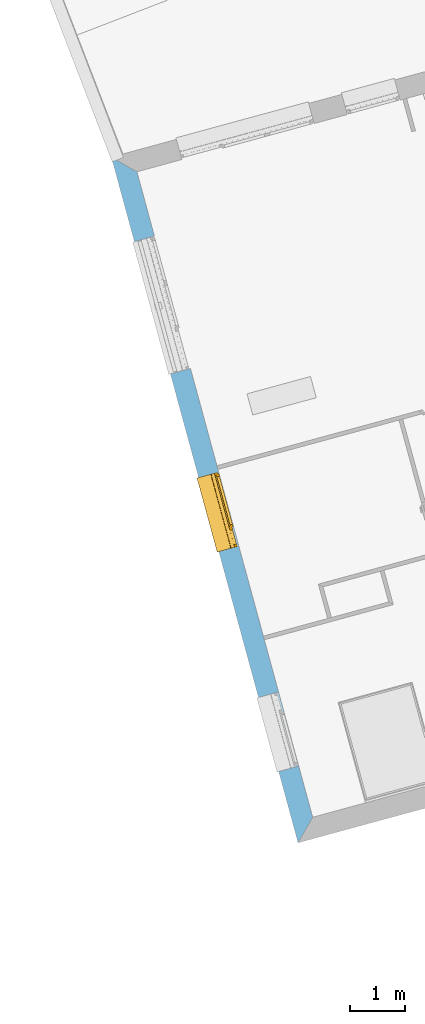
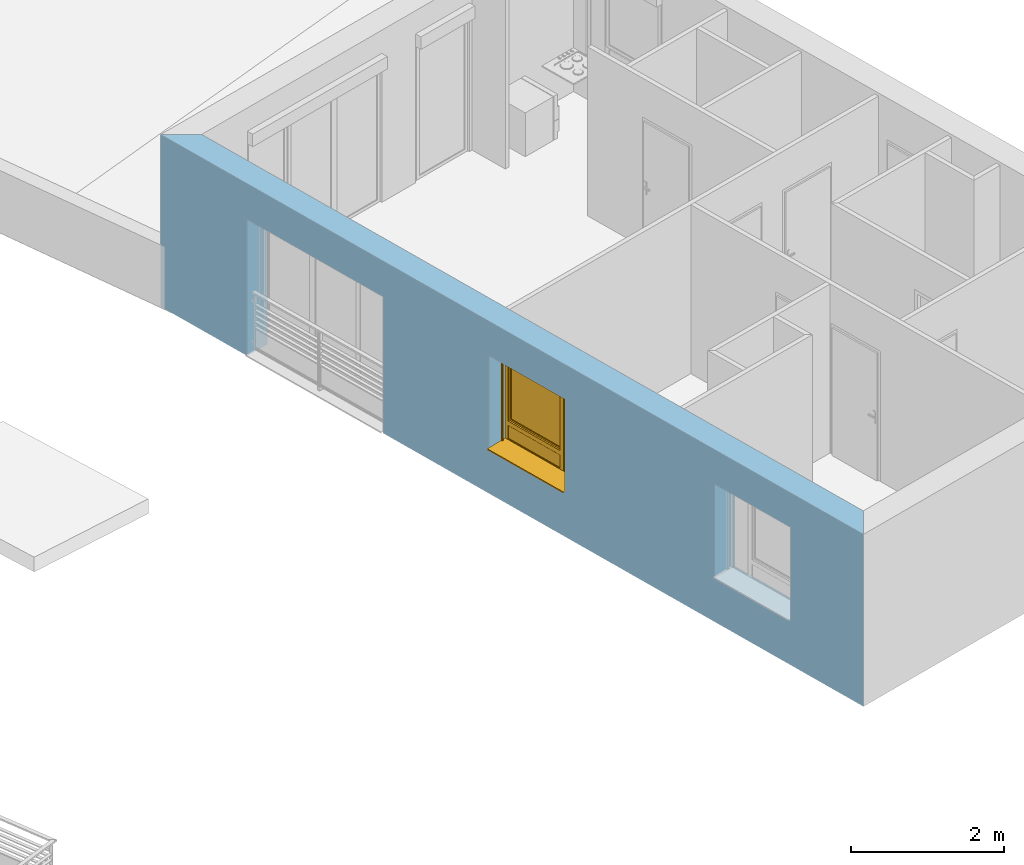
# One storey, part 62 of 121: 1 window, 3 openings, plus 1 element that does not belong to this part.
"""IFC2X3 building model written with IfcOpenShell, lengths in metres."""

from ifc_helpers import new_model, entity, si_unit, converted_unit, derived_unit, money_unit, direction, frame, origin_with_axes, place, context, subcontext, project, spatial, polyline, outline, extrude, open_shell, faceted_brep, surface_model, source, transform, mapped, material, layer, layer_set, layer_usage, type_object, element, fill, save


model = new_model("IFC2X3")

# Units and contexts
model_context = context("Model", 3, precision=1e-05, world=origin_with_axes(), true_north=direction((0.0, 1.0)))
body_context = subcontext(model_context, "Body", "Model", "MODEL_VIEW")
ifc_project = project(units=[si_unit("LENGTHUNIT", "METRE"), si_unit("AREAUNIT", "SQUARE_METRE"), si_unit("VOLUMEUNIT", "CUBIC_METRE"), converted_unit("PLANEANGLEUNIT", "DEGREE", entity("IfcPlaneAngleMeasure", 0.0174532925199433), si_unit("PLANEANGLEUNIT", "RADIAN"), dimensions=[0, 0, 0, 0, 0, 0, 0]), money_unit("CHF"), converted_unit("TIMEUNIT", "Year", entity("IfcTimeMeasure", 31557600.0), si_unit("TIMEUNIT", "SECOND"), dimensions=[0, 0, 1, 0, 0, 0, 0]), si_unit("MASSUNIT", "GRAM", prefix="KILO"), si_unit("THERMODYNAMICTEMPERATUREUNIT", "DEGREE_CELSIUS"), si_unit("LUMINOUSINTENSITYUNIT", "LUMEN"), si_unit("ENERGYUNIT", "JOULE", prefix="MEGA"), derived_unit("THERMALCONDUCTANCEUNIT", [(si_unit("POWERUNIT", "WATT"), 1), (si_unit("LENGTHUNIT", "METRE"), -1), (si_unit("THERMODYNAMICTEMPERATUREUNIT", "KELVIN"), -1)]), derived_unit("SPECIFICHEATCAPACITYUNIT", [(si_unit("ENERGYUNIT", "JOULE"), 1), (si_unit("MASSUNIT", "GRAM", prefix="KILO"), -1), (si_unit("THERMODYNAMICTEMPERATUREUNIT", "KELVIN"), -1)]), derived_unit("MASSDENSITYUNIT", [(si_unit("MASSUNIT", "GRAM", prefix="KILO"), 1), (si_unit("VOLUMEUNIT", "CUBIC_METRE"), -1)])], contexts=[model_context])

# Site, building, storey
site_placement = place(None, origin_with_axes())
site = spatial("IfcSite", under=ifc_project, at=site_placement, Name="Site", CompositionType="ELEMENT")
building_placement = place(site_placement, origin_with_axes())
building = spatial("IfcBuilding", under=site, at=building_placement, Name="Bâtiment", CompositionType="ELEMENT")
storey_placement = place(building_placement, frame((0.0, 0.0, 2.75), z_axis=(0.0, 0.0, 1.0), x_axis=(1.0, 0.0, 0.0)))
storey = spatial("IfcBuildingStorey", under=building, at=storey_placement, Name="Etage 1", CompositionType="ELEMENT", Elevation=2.75)

# Wall, openings, window
ifc_material_1 = material(Name="Parpaing 312445824")
ifc_layer_1 = layer(ifc_material_1, 0.22, ventilated="UNKNOWN")
ifc_material_2 = material(Name="Isolant styromousse 301821074")
ifc_layer_2 = layer(ifc_material_2, 0.16, ventilated="UNKNOWN")
ifc_layer_set = layer_set([ifc_layer_1, ifc_layer_2], Name="isol int 22+16 0836643197")
ifc_layer_usage = layer_usage(ifc_layer_set, "AXIS2", "NEGATIVE", 0.0)
wall_type = type_object("IfcWallType", Name="isol int 22+16 0836643197 380", PredefinedType="NOTDEFINED")
wall_placement = place(storey_placement, frame((9589.740388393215, -1059.429674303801, 57.7), z_axis=(0.0, 0.0, 1.0), x_axis=(-0.2627340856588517, 0.9648682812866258, 0.0)))
wall = element("IfcWallStandardCase", 1, at=wall_placement, inside=storey, type_object=wall_type, material=ifc_layer_usage, Name="Mur-113", context=body_context, shape_type="SweptSolid", body=[
    extrude(outline(polyline([(0.3800000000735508, -0.3800000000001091), (12.5772734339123, -0.3800000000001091), (12.95727343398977, 0.0), (0.0, 0.0), (0.3800000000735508, -0.3800000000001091)])), origin_with_axes(), (0.0, 0.0, 1.0), 2.75),
])
opening_1_placement = place(wall_placement, frame((6.202420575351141, 0.0, 0.7000000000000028), z_axis=(0.0, 0.0, 1.0), x_axis=(1.0, 0.0, 0.0)))
opening_1 = element("IfcOpeningElement", 2, at=opening_1_placement, cuts=wall, Name="Fen-045", context=body_context, shape_type="Brep", body=[
    faceted_brep([(0.6999999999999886, -0.4800000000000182, 1.5), (-0.6999999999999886, -0.4800000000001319, 1.5), (-0.6999999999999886, -3.665717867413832, 1.5), (0.6999999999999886, -3.665717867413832, 1.5), (0.6999999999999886, -0.4800000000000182, 1.700000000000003), (-0.6999999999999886, -0.4800000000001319, 1.700000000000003), (-0.6999999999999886, -0.3000000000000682, 1.5), (-0.6999999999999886, -0.3000000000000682, 0.0), (-0.6999999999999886, -3.665717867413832, 0.0), (0.6999999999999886, -3.665717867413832, 0.0), (0.6999999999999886, -0.3000000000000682, 1.5), (0.6999999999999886, -0.3000000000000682, 0.0), (0.6999999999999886, -0.2200000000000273, 1.5), (0.6999999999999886, -0.2200000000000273, 1.700000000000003), (-0.6999999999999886, -0.2200000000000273, 1.700000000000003), (-0.6999999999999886, -0.2200000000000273, 1.5), (-0.6999999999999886, 3.285717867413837, 1.5), (-0.6999999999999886, 3.285717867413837, 0.0), (0.6999999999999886, 3.285717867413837, 0.0), (0.6999999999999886, 3.285717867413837, 1.5)], [[[0, 1, 2, 3]], [[1, 0, 4, 5]], [[1, 6, 7, 8, 2]], [[2, 8, 9, 3]], [[10, 0, 3, 9, 11]], [[0, 10, 12, 13, 4]], [[14, 5, 4, 13]], [[6, 1, 5, 14, 15]], [[6, 15, 16, 17, 7]], [[7, 11, 9, 8]], [[12, 10, 11, 18, 19]], [[12, 15, 14, 13]], [[15, 12, 19, 16]], [[19, 18, 17, 16]], [[11, 7, 17, 18]]]),
])
opening_2_placement = place(wall_placement, frame((2.047784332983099, 0.0, 0.7000000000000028), z_axis=(0.0, 0.0, 1.0), x_axis=(1.0, 0.0, 0.0)))
element("IfcOpeningElement", 3, at=opening_2_placement, cuts=wall, Name="Fen-045", context=body_context, shape_type="Brep", body=[
    faceted_brep([(0.6999999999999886, -0.4800000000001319, 1.5), (-0.7000000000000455, -0.4800000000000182, 1.5), (-0.7000000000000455, -3.665717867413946, 1.5), (0.6999999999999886, -3.665717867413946, 1.5), (0.6999999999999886, -0.4800000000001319, 1.700000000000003), (-0.7000000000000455, -0.4800000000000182, 1.700000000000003), (-0.7000000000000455, -0.3000000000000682, 1.5), (-0.6999999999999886, -0.3000000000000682, 0.0), (-0.7000000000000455, -3.665717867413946, 0.0), (0.6999999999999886, -3.665717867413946, 0.0), (0.6999999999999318, -0.2999999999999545, 1.5), (0.6999999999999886, -0.2999999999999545, 0.0), (0.6999999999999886, -0.2200000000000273, 1.5), (0.6999999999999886, -0.2200000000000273, 1.700000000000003), (-0.7000000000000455, -0.2200000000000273, 1.700000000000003), (-0.7000000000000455, -0.2200000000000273, 1.5), (-0.7000000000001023, 3.285717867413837, 1.5), (-0.7000000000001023, 3.285717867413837, 0.0), (0.6999999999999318, 3.285717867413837, 0.0), (0.6999999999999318, 3.285717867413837, 1.5)], [[[0, 1, 2, 3]], [[1, 0, 4, 5]], [[1, 6, 7, 8, 2]], [[2, 8, 9, 3]], [[10, 0, 3, 9, 11]], [[0, 10, 12, 13, 4]], [[4, 13, 14, 5]], [[6, 1, 5, 14, 15]], [[6, 15, 16, 17, 7]], [[7, 11, 9, 8]], [[12, 10, 11, 18, 19]], [[12, 15, 14, 13]], [[15, 12, 19, 16]], [[19, 18, 17, 16]], [[11, 7, 17, 18]]]),
])
opening_3_placement = place(wall_placement, frame((10.11101537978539, 0.0, 0.0), z_axis=(0.0, 0.0, 1.0), x_axis=(1.0, 0.0, 0.0)))
element("IfcOpeningElement", 4, at=opening_3_placement, cuts=wall, Name="Fen-045", context=body_context, shape_type="Brep", body=[
    faceted_brep([(1.249999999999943, -0.4800000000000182, 2.18), (-1.250000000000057, -0.4800000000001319, 2.18), (-1.250000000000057, -3.665717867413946, 2.18), (1.25, -3.665717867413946, 2.18), (1.249999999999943, -0.4800000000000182, 2.380000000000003), (-1.250000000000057, -0.4800000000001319, 2.380000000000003), (-1.25, -0.2999999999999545, 2.18), (-1.25, -0.2999999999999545, 0.0), (-1.250000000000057, -3.665717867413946, 0.0), (1.25, -3.665717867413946, 0.0), (1.249999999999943, -0.3000000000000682, 2.18), (1.25, -0.3000000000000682, 0.0), (1.249999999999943, -0.2200000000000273, 2.18), (1.249999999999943, -0.2200000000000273, 2.380000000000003), (-1.25, -0.2200000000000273, 2.380000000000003), (-1.25, -0.2200000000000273, 2.18), (-1.250000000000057, 3.285717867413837, 2.18), (-1.250000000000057, 3.285717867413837, 0.0), (1.249999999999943, 3.285717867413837, 0.0), (1.249999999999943, 3.285717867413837, 2.18)], [[[0, 1, 2, 3]], [[1, 0, 4, 5]], [[1, 6, 7, 8, 2]], [[2, 8, 9, 3]], [[10, 0, 3, 9, 11]], [[0, 10, 12, 13, 4]], [[14, 5, 4, 13]], [[6, 1, 5, 14, 15]], [[6, 15, 16, 17, 7]], [[7, 11, 9, 8]], [[12, 10, 11, 18, 19]], [[12, 15, 14, 13]], [[15, 12, 19, 16]], [[19, 18, 17, 16]], [[11, 7, 17, 18]]]),
])
window_style = type_object("IfcWindowStyle", Name="Fenêtre variable 27", ConstructionType="NOTDEFINED", OperationType="TRIPLE_PANEL_RIGHT", ParameterTakesPrecedence=False, Sizeable=False)
shared_shape = source(origin_with_axes(), body_context, "Body", "SurfaceModel", [
    surface_model("IfcShellBasedSurfaceModel", [(-0.7, -0.05100000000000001, 0.05), (-0.7, -0.05100000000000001, 0.04), (0.7, -0.05100000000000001, 0.04000000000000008), (0.7, -0.05100000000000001, 0.05000000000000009), (-0.7, -0.3799999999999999, 0.02899999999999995), (0.7, -0.3799999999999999, 0.02900000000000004), (-0.7, -0.3799999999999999, 0.008999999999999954), (0.7, -0.3799999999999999, 0.00900000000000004), (-0.7, -0.3699999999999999, 0.01899999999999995), (0.7, -0.3699999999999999, 0.01900000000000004)], [open_shell([[[0, 1, 2, 3]], [[1, 4, 5, 2]], [[4, 6, 7, 5]], [[6, 8, 9, 7]]])]),
    faceted_brep([(-0.7, -0.13, 1.7), (-0.697, -0.13, 1.7), (-0.697, 0.13, 1.7), (-0.7, 0.13, 1.7), (-0.7, -0.13, 1.5), (-0.697, -0.13, 1.5), (-0.697, 0.13, 1.5), (-0.7, 0.13, 1.5)], [[[0, 1, 2, 3]], [[4, 5, 1, 0]], [[1, 5, 6, 2]], [[3, 2, 6, 7]], [[0, 3, 7, 4]], [[7, 6, 5, 4]]]),
    faceted_brep([(0.6970000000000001, -0.1299999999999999, 1.7), (0.7000000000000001, -0.1299999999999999, 1.7), (0.7000000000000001, 0.1300000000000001, 1.7), (0.6970000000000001, 0.1300000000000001, 1.7), (0.6970000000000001, -0.1299999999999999, 1.5), (0.7000000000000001, -0.1299999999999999, 1.5), (0.7000000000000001, 0.1300000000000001, 1.5), (0.6970000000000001, 0.1300000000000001, 1.5)], [[[0, 1, 2, 3]], [[4, 5, 1, 0]], [[1, 5, 6, 2]], [[3, 2, 6, 7]], [[0, 3, 7, 4]], [[7, 6, 5, 4]]]),
    faceted_brep([(-0.697, -0.13, 1.5), (0.697, -0.1299999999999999, 1.5), (0.697, -0.1299999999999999, 1.7), (-0.697, -0.13, 1.7), (-0.697, -0.127, 1.5), (0.697, -0.1269999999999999, 1.5), (0.697, -0.1269999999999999, 1.697), (0.697, 0.1270000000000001, 1.697), (0.697, 0.1270000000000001, 1.503), (0.697, -0.1079999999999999, 1.503), (0.697, -0.1079999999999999, 1.5), (0.697, 0.1300000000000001, 1.5), (0.697, 0.1300000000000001, 1.7), (-0.697, 0.13, 1.7), (-0.697, 0.13, 1.5), (-0.697, -0.108, 1.5), (-0.697, -0.108, 1.503), (-0.697, 0.127, 1.503), (-0.697, 0.127, 1.697), (-0.697, -0.127, 1.697)], [[[0, 1, 2, 3]], [[4, 5, 1, 0]], [[1, 5, 6, 7, 8, 9, 10, 11, 12, 2]], [[3, 2, 12, 13]], [[0, 3, 13, 14, 15, 16, 17, 18, 19, 4]], [[19, 6, 5, 4]], [[18, 7, 6, 19]], [[17, 8, 7, 18]], [[16, 9, 8, 17]], [[15, 10, 9, 16]], [[14, 11, 10, 15]], [[13, 12, 11, 14]]]),
    faceted_brep([(-0.694, -0.08075423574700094, 1.585760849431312), (-0.694, -0.08200000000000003, 1.6), (-0.694, -0.0807542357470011, 1.614239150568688), (-0.694, -0.07705479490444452, 1.628045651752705), (-0.694, -0.07101408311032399, 1.641), (-0.694, -0.06281564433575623, 1.652708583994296), (-0.694, -0.05270858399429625, 1.662815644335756), (-0.694, -0.04100000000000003, 1.671014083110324), (-0.694, -0.02804565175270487, 1.677054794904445), (-0.694, -0.01423915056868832, 1.680754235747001), (-0.694, 0.0, 1.682), (-0.694, 0.01423915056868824, 1.680754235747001), (-0.694, 0.02804565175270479, 1.677054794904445), (-0.694, 0.04099999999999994, 1.671014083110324), (-0.694, 0.05270858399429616, 1.662815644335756), (-0.694, 0.06281564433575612, 1.652708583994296), (-0.694, 0.07101408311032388, 1.641), (-0.694, 0.0770547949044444, 1.628045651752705), (-0.694, 0.08075423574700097, 1.614239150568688), (-0.694, 0.0819999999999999, 1.6), (-0.694, 0.08075423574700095, 1.585760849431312), (-0.694, 0.07705479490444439, 1.571954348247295), (-0.694, 0.07101408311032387, 1.559), (-0.694, 0.06281564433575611, 1.547291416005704), (-0.694, 0.05270858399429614, 1.537184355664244), (-0.694, 0.04099999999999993, 1.528985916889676), (-0.694, 0.02804565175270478, 1.522945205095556), (-0.694, 0.01423915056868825, 1.519245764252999), (-0.694, 0.0, 1.518), (-0.694, -0.01423915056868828, 1.519245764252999), (-0.694, -0.02804565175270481, 1.522945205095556), (-0.694, -0.04099999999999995, 1.528985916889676), (-0.694, -0.05270858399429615, 1.537184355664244), (-0.694, -0.06281564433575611, 1.547291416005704), (-0.694, -0.07101408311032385, 1.559), (-0.694, -0.07705479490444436, 1.571954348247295), (0.694, -0.08075423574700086, 1.585760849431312), (0.694, -0.08199999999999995, 1.6), (0.694, -0.08075423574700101, 1.614239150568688), (0.694, -0.07705479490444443, 1.628045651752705), (0.694, -0.07101408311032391, 1.641), (0.694, -0.06281564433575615, 1.652708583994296), (0.694, -0.05270858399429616, 1.662815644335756), (0.694, -0.04099999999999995, 1.671014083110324), (0.694, -0.02804565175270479, 1.677054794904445), (0.694, -0.01423915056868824, 1.680754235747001), (0.694, 0.0, 1.682), (0.694, 0.01423915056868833, 1.680754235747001), (0.694, 0.02804565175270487, 1.677054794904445), (0.694, 0.04100000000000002, 1.671014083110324), (0.694, 0.05270858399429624, 1.662815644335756), (0.694, 0.0628156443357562, 1.652708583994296), (0.694, 0.07101408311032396, 1.641), (0.694, 0.07705479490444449, 1.628045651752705), (0.694, 0.08075423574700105, 1.614239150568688), (0.694, 0.08199999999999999, 1.6), (0.694, 0.08075423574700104, 1.585760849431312), (0.694, 0.07705479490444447, 1.571954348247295), (0.694, 0.07101408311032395, 1.559), (0.694, 0.06281564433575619, 1.547291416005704), (0.694, 0.05270858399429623, 1.537184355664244), (0.694, 0.04100000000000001, 1.528985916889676), (0.694, 0.02804565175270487, 1.522945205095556), (0.694, 0.01423915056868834, 1.519245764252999), (0.694, 0.0, 1.518), (0.694, -0.0142391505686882, 1.519245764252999), (0.694, -0.02804565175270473, 1.522945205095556), (0.694, -0.04099999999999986, 1.528985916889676), (0.694, -0.05270858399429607, 1.537184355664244), (0.694, -0.06281564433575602, 1.547291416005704), (0.694, -0.07101408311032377, 1.559), (0.694, -0.07705479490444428, 1.571954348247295)], [[[0, 1, 2, 3, 4, 5, 6, 7, 8, 9, 10, 11, 12, 13, 14, 15, 16, 17, 18, 19, 20, 21, 22, 23, 24, 25, 26, 27, 28, 29, 30, 31, 32, 33, 34, 35]], [[0, 36, 37, 1]], [[1, 37, 38, 2]], [[2, 38, 39, 3]], [[3, 39, 40, 4]], [[4, 40, 41, 5]], [[5, 41, 42, 6]], [[6, 42, 43, 7]], [[7, 43, 44, 8]], [[8, 44, 45, 9]], [[9, 45, 46, 10]], [[10, 46, 47, 11]], [[11, 47, 48, 12]], [[12, 48, 49, 13]], [[13, 49, 50, 14]], [[14, 50, 51, 15]], [[15, 51, 52, 16]], [[16, 52, 53, 17]], [[17, 53, 54, 18]], [[18, 54, 55, 19]], [[19, 55, 56, 20]], [[20, 56, 57, 21]], [[21, 57, 58, 22]], [[22, 58, 59, 23]], [[23, 59, 60, 24]], [[24, 60, 61, 25]], [[25, 61, 62, 26]], [[26, 62, 63, 27]], [[27, 63, 64, 28]], [[28, 64, 65, 29]], [[29, 65, 66, 30]], [[30, 66, 67, 31]], [[31, 67, 68, 32]], [[32, 68, 69, 33]], [[33, 69, 70, 34]], [[34, 70, 71, 35]], [[35, 71, 36, 0]], [[36, 71, 70, 69, 68, 67, 66, 65, 64, 63, 62, 61, 60, 59, 58, 57, 56, 55, 54, 53, 52, 51, 50, 49, 48, 47, 46, 45, 44, 43, 42, 41, 40, 39, 38, 37]]]),
    faceted_brep([(0.7, -0.105, 0.03), (0.7, -0.1049999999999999, 1.5), (0.7, -0.1299999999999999, 1.5), (0.7, -0.13, 0.03), (0.6749999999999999, -0.105, 0.03), (0.6749999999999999, -0.1049999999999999, 1.5), (0.6749999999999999, -0.1079999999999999, 1.5), (0.697, -0.1079999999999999, 1.5), (0.697, -0.1269999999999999, 1.5), (0.6749999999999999, -0.1269999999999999, 1.5), (0.6749999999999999, -0.1299999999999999, 1.5), (0.6749999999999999, -0.13, 0.03), (0.6749999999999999, -0.127, 0.03), (0.697, -0.127, 0.03), (0.697, -0.108, 0.03), (0.6749999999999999, -0.108, 0.03)], [[[0, 1, 2, 3]], [[4, 5, 1, 0]], [[1, 5, 6, 7, 8, 9, 10, 2]], [[3, 2, 10, 11]], [[0, 3, 11, 12, 13, 14, 15, 4]], [[15, 6, 5, 4]], [[14, 7, 6, 15]], [[13, 8, 7, 14]], [[12, 9, 8, 13]], [[11, 10, 9, 12]]]),
    faceted_brep([(-0.7, -0.105, 0.03), (-0.7, -0.13, 0.03), (-0.7, -0.1299999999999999, 1.5), (-0.7, -0.1049999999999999, 1.5), (-0.6749999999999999, -0.105, 0.03), (-0.6749999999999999, -0.108, 0.03), (-0.697, -0.108, 0.03), (-0.697, -0.127, 0.03), (-0.6749999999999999, -0.127, 0.03), (-0.6749999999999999, -0.13, 0.03), (-0.6749999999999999, -0.1299999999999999, 1.5), (-0.6749999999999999, -0.1269999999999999, 1.5), (-0.697, -0.1269999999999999, 1.5), (-0.697, -0.1079999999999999, 1.5), (-0.6749999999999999, -0.1079999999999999, 1.5), (-0.6749999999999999, -0.1049999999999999, 1.5)], [[[0, 1, 2, 3]], [[0, 4, 5, 6, 7, 8, 9, 1]], [[1, 9, 10, 2]], [[3, 2, 10, 11, 12, 13, 14, 15]], [[4, 0, 3, 15]], [[5, 4, 15, 14]], [[6, 5, 14, 13]], [[7, 6, 13, 12]], [[8, 7, 12, 11]], [[9, 8, 11, 10]]]),
    surface_model("IfcShellBasedSurfaceModel", [(-0.697, -0.115, 1.6), (0.697, -0.1149999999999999, 1.6), (0.697, -0.1199999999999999, 1.6), (-0.697, -0.12, 1.6), (-0.697, -0.115, 1.6), (-0.697, -0.12, 1.6), (0.697, -0.12, 1.6), (0.697, -0.1149999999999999, 1.6)], [open_shell([[[0, 1, 2, 3]], [[4, 5, 6, 7]]])]),
    faceted_brep([(-0.697, -0.115, 1.6), (0.697, -0.1149999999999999, 1.6), (0.697, -0.1166666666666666, 1.583333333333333), (-0.697, -0.1166666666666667, 1.583333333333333), (-0.697, -0.12, 1.6), (0.697, -0.1199999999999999, 1.6), (0.697, -0.1216666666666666, 1.583333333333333), (0.697, -0.1216666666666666, 1.566666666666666), (0.697, -0.1199999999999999, 1.55), (0.697, -0.1149999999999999, 1.55), (0.697, -0.1166666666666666, 1.566666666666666), (-0.697, -0.1166666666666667, 1.566666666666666), (-0.697, -0.115, 1.55), (-0.697, -0.12, 1.55), (-0.697, -0.1216666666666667, 1.566666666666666), (-0.697, -0.1216666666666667, 1.583333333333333)], [[[0, 1, 2, 3]], [[4, 5, 1, 0]], [[1, 5, 6, 7, 8, 9, 10, 2]], [[3, 2, 10, 11]], [[0, 3, 11, 12, 13, 14, 15, 4]], [[15, 6, 5, 4]], [[14, 7, 6, 15]], [[13, 8, 7, 14]], [[12, 9, 8, 13]], [[11, 10, 9, 12]]]),
    faceted_brep([(-0.697, -0.115, 1.55), (0.697, -0.1149999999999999, 1.55), (0.697, -0.1166666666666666, 1.533333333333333), (-0.697, -0.1166666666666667, 1.533333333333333), (-0.697, -0.12, 1.55), (0.697, -0.1199999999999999, 1.55), (0.697, -0.1216666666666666, 1.533333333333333), (0.697, -0.1216666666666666, 1.516666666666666), (0.697, -0.1199999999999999, 1.5), (0.697, -0.1149999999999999, 1.5), (0.697, -0.1166666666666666, 1.516666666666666), (-0.697, -0.1166666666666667, 1.516666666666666), (-0.697, -0.115, 1.5), (-0.697, -0.12, 1.5), (-0.697, -0.1216666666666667, 1.516666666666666), (-0.697, -0.1216666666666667, 1.533333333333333)], [[[0, 1, 2, 3]], [[4, 5, 1, 0]], [[1, 5, 6, 7, 8, 9, 10, 2]], [[3, 2, 10, 11]], [[0, 3, 11, 12, 13, 14, 15, 4]], [[15, 6, 5, 4]], [[14, 7, 6, 15]], [[13, 8, 7, 14]], [[12, 9, 8, 13]], [[11, 10, 9, 12]]]),
    faceted_brep([(-0.6749999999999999, 0.0, 1.45), (-0.7, 0.0, 1.45), (-0.7, -0.05000000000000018, 1.45), (-0.6499999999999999, -0.05000000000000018, 1.45), (-0.6499999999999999, -0.02500000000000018, 1.45), (-0.6749999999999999, -0.02500000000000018, 1.45), (-0.6749999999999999, 0.0, 0.3099999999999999), (-0.6499999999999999, 0.0, 0.3099999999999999), (-0.6499999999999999, 0.0, 0.265), (-0.6499999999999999, 0.0, 0.05000000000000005), (-0.7, 0.0, 0.05000000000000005), (-0.7, -0.05000000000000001, 0.05000000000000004), (-0.6499999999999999, -0.05000000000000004, 0.335), (-0.6499999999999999, -0.05000000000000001, 0.05000000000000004), (-0.6499999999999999, -0.05000000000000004, 0.265), (-0.6499999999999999, -0.02500000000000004, 0.335), (-0.6499999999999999, -0.02500000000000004, 0.3099999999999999), (-0.6749999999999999, -0.02500000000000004, 0.3099999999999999)], [[[0, 1, 2, 3, 4, 5]], [[6, 7, 8, 9, 10, 1, 0]], [[1, 10, 11, 2]], [[12, 3, 2, 11, 13, 14]], [[4, 3, 12, 15]], [[15, 16, 17, 5, 4]], [[5, 17, 6, 0]], [[6, 17, 16, 7]], [[16, 15, 12, 14, 8, 7]], [[9, 8, 14, 13]], [[10, 9, 13, 11]]]),
    faceted_brep([(0.3068894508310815, -0.02500000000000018, 1.45), (0.3068894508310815, -0.05000000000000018, 1.45), (0.3768894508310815, -0.05000000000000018, 1.45), (0.3768894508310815, 0.0, 1.45), (0.3318894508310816, 0.0, 1.45), (0.3318894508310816, -0.02500000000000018, 1.45), (0.3068894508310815, -0.02500000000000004, 0.335), (0.3068894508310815, -0.05000000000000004, 0.335), (0.3068894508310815, -0.05000000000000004, 0.265), (0.3068894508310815, -0.05000000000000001, 0.05000000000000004), (0.3768894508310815, -0.05000000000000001, 0.05000000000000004), (0.3768894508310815, 0.0, 0.05000000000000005), (0.3318894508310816, 0.0, 0.3099999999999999), (0.3068894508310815, 0.0, 0.05000000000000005), (0.3068894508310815, 0.0, 0.265), (0.3068894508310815, 0.0, 0.3099999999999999), (0.3318894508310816, -0.02500000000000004, 0.3099999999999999), (0.3068894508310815, -0.02500000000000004, 0.3099999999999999)], [[[0, 1, 2, 3, 4, 5]], [[6, 7, 1, 0]], [[8, 9, 10, 2, 1, 7]], [[11, 3, 2, 10]], [[12, 4, 3, 11, 13, 14, 15]], [[12, 16, 5, 4]], [[5, 16, 17, 6, 0]], [[17, 15, 14, 8, 7, 6]], [[14, 13, 9, 8]], [[13, 11, 10, 9]], [[15, 17, 16, 12]]]),
    faceted_brep([(-0.6499999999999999, -0.02500000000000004, 0.335), (-0.6499999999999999, -0.05000000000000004, 0.335), (0.3068894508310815, -0.05000000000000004, 0.335), (0.3068894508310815, -0.02500000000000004, 0.335), (-0.6499999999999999, -0.02500000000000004, 0.3099999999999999), (-0.6499999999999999, 0.0, 0.3099999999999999), (-0.6499999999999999, 0.0, 0.265), (-0.6499999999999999, -0.05000000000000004, 0.265), (0.3068894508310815, -0.05000000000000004, 0.265), (0.3068894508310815, -0.02500000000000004, 0.3099999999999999), (0.3068894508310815, 0.0, 0.265), (0.3068894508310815, 0.0, 0.3099999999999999)], [[[0, 1, 2, 3]], [[4, 5, 6, 7, 1, 0]], [[2, 1, 7, 8]], [[9, 3, 2, 8, 10, 11]], [[9, 4, 0, 3]], [[5, 4, 9, 11]], [[11, 10, 6, 5]], [[6, 10, 8, 7]]]),
    faceted_brep([(-0.6749999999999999, 0.0, 1.45), (-0.7, 0.0, 1.45), (-0.7, 0.0, 1.5), (0.7, 0.0, 1.5), (0.7, 0.0, 1.45), (0.6499999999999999, 0.0, 1.45), (0.3768894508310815, 0.0, 1.45), (0.3318894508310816, 0.0, 1.45), (0.3318894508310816, 0.0, 1.475), (-0.6749999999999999, 0.0, 1.475), (-0.6749999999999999, -0.02500000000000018, 1.45), (-0.6499999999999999, -0.02500000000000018, 1.45), (-0.6499999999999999, -0.05000000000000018, 1.45), (-0.7, -0.05000000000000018, 1.45), (-0.7, -0.05000000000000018, 1.5), (0.7, -0.05000000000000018, 1.5), (0.7, -0.05000000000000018, 1.45), (0.6499999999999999, -0.05000000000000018, 1.45), (0.3768894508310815, -0.05000000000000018, 1.45), (0.3318894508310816, -0.02500000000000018, 1.45), (0.3068894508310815, -0.05000000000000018, 1.45), (0.3068894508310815, -0.02500000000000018, 1.45), (0.3318894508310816, -0.02500000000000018, 1.475), (-0.6749999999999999, -0.02500000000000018, 1.475)], [[[0, 1, 2, 3, 4, 5, 6, 7, 8, 9]], [[10, 11, 12, 13, 1, 0]], [[2, 1, 13, 14]], [[3, 2, 14, 15]], [[4, 3, 15, 16]], [[5, 4, 16, 17]], [[6, 5, 17, 18]], [[19, 7, 6, 18, 20, 21]], [[7, 19, 22, 8]], [[8, 22, 23, 9]], [[9, 23, 10, 0]], [[21, 11, 10, 23, 22, 19]], [[21, 20, 12, 11]], [[18, 17, 16, 15, 14, 13, 12, 20]]]),
    faceted_brep([(0.6499999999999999, -0.05000000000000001, 0.05), (0.6499999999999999, 0.0, 0.05000000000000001), (0.7, 0.0, 0.05000000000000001), (0.7, -0.05000000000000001, 0.05), (0.6499999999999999, -0.05000000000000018, 1.45), (0.6499999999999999, 0.0, 1.45), (0.7, 0.0, 1.45), (0.7, -0.05000000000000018, 1.45)], [[[0, 1, 2, 3]], [[4, 5, 1, 0]], [[1, 5, 6, 2]], [[3, 2, 6, 7]], [[0, 3, 7, 4]], [[7, 6, 5, 4]]]),
    faceted_brep([(-0.6499999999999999, -0.05000000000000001, 0.05), (-0.6499999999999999, 0.0, 0.05000000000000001), (-0.7, 0.0, 0.05000000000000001), (-0.7, -0.05000000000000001, 0.05), (0.3068894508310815, -0.05000000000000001, 0.05), (0.3068894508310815, 0.0, 0.05000000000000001), (0.3768894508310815, 0.0, 0.05000000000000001), (0.6499999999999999, 0.0, 0.05000000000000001), (0.7, 0.0, 0.05000000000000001), (0.7, 0.0, 0.0), (-0.7, 0.0, 0.0), (-0.7, -0.05, 0.0), (0.7, -0.05, 0.0), (0.7, -0.05000000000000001, 0.05), (0.6499999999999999, -0.05000000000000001, 0.05), (0.3768894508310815, -0.05000000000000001, 0.05)], [[[0, 1, 2, 3]], [[4, 5, 1, 0]], [[1, 5, 6, 7, 8, 9, 10, 2]], [[3, 2, 10, 11]], [[0, 3, 11, 12, 13, 14, 15, 4]], [[15, 6, 5, 4]], [[14, 7, 6, 15]], [[13, 8, 7, 14]], [[12, 9, 8, 13]], [[11, 10, 9, 12]]]),
    faceted_brep([(-0.625, -0.02500000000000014, 1.425), (-0.625, 0.02499999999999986, 1.425), (-0.6749999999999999, 0.02499999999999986, 1.425), (-0.6749999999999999, -0.02500000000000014, 1.425), (-0.625, -0.02500000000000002, 0.3599999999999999), (-0.625, 0.02499999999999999, 0.3599999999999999), (-0.6749999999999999, 0.02499999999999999, 0.3599999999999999), (-0.6749999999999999, -0.02500000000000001, 0.3599999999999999)], [[[0, 1, 2, 3]], [[4, 5, 1, 0]], [[1, 5, 6, 2]], [[3, 2, 6, 7]], [[0, 3, 7, 4]], [[7, 6, 5, 4]]]),
    faceted_brep([(0.2818894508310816, -0.02500000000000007, 0.3599999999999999), (0.2818894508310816, 0.02499999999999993, 0.3599999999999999), (0.3318894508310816, 0.02499999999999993, 0.3599999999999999), (0.3318894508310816, -0.02500000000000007, 0.3599999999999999), (0.2818894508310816, -0.0250000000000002, 1.425), (0.2818894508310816, 0.0249999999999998, 1.425), (0.3318894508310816, 0.0249999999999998, 1.425), (0.3318894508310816, -0.0250000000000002, 1.425)], [[[0, 1, 2, 3]], [[4, 5, 1, 0]], [[1, 5, 6, 2]], [[3, 2, 6, 7]], [[0, 3, 7, 4]], [[7, 6, 5, 4]]]),
    faceted_brep([(0.3318894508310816, -0.02500000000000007, 0.3099999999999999), (0.3318894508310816, 0.02499999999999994, 0.3099999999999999), (0.3318894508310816, 0.02499999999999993, 0.3599999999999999), (0.3318894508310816, -0.02500000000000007, 0.3599999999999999), (-0.6749999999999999, -0.025, 0.3099999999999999), (-0.6749999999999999, 0.02499999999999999, 0.3099999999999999), (-0.6749999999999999, 0.02499999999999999, 0.3599999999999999), (-0.625, 0.02499999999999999, 0.3599999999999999), (0.2818894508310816, 0.02499999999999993, 0.3599999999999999), (0.2818894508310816, -0.02500000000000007, 0.3599999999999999), (-0.625, -0.02500000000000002, 0.3599999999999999), (-0.6749999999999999, -0.02500000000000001, 0.3599999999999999)], [[[0, 1, 2, 3]], [[4, 5, 1, 0]], [[1, 5, 6, 7, 8, 2]], [[3, 2, 8, 9]], [[0, 3, 9, 10, 11, 4]], [[11, 6, 5, 4]], [[10, 7, 6, 11]], [[9, 8, 7, 10]]]),
    faceted_brep([(-0.6749999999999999, -0.02500000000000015, 1.475), (-0.6749999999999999, 0.02499999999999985, 1.475), (-0.6749999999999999, 0.02499999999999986, 1.425), (-0.6749999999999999, -0.02500000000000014, 1.425), (0.3318894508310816, -0.02500000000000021, 1.475), (0.3318894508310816, 0.02499999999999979, 1.475), (0.3318894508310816, 0.0249999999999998, 1.425), (0.2818894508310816, 0.0249999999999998, 1.425), (-0.625, 0.02499999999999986, 1.425), (-0.625, -0.02500000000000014, 1.425), (0.2818894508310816, -0.0250000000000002, 1.425), (0.3318894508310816, -0.0250000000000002, 1.425)], [[[0, 1, 2, 3]], [[4, 5, 1, 0]], [[1, 5, 6, 7, 8, 2]], [[3, 2, 8, 9]], [[0, 3, 9, 10, 11, 4]], [[11, 6, 5, 4]], [[10, 7, 6, 11]], [[9, 8, 7, 10]]]),
    surface_model("IfcShellBasedSurfaceModel", [(-0.625, -0.01000000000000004, 0.3599999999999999), (0.2818894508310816, -0.01000000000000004, 0.3599999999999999), (0.2818894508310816, -0.01000000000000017, 1.425), (-0.625, -0.01000000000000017, 1.425)], [open_shell([[[0, 1, 2, 3]]])]),
    surface_model("IfcShellBasedSurfaceModel", [(-0.625, 0.009999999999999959, 0.3599999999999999), (-0.625, 0.00999999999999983, 1.425), (0.2818894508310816, 0.00999999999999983, 1.425), (0.2818894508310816, 0.009999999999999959, 0.3599999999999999)], [open_shell([[[0, 1, 2, 3]]])]),
    surface_model("IfcShellBasedSurfaceModel", [(0.3768894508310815, -0.035, 0.05), (0.65, -0.035, 0.05), (0.65, -0.03500000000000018, 1.45), (0.3768894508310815, -0.03500000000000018, 1.45)], [open_shell([[[0, 1, 2, 3]]])]),
    surface_model("IfcShellBasedSurfaceModel", [(0.3768894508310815, -0.015, 0.05), (0.3768894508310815, -0.01500000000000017, 1.45), (0.65, -0.01500000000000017, 1.45), (0.65, -0.015, 0.05)], [open_shell([[[0, 1, 2, 3]]])]),
    surface_model("IfcShellBasedSurfaceModel", [(-0.6499999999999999, -0.035, 0.05), (0.3068894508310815, -0.035, 0.05), (0.3068894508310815, -0.03500000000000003, 0.265), (-0.6499999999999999, -0.03500000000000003, 0.265)], [open_shell([[[0, 1, 2, 3]]])]),
    surface_model("IfcShellBasedSurfaceModel", [(-0.6499999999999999, -0.015, 0.05), (-0.6499999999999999, -0.01500000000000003, 0.265), (0.3068894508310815, -0.01500000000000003, 0.265), (0.3068894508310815, -0.015, 0.05)], [open_shell([[[0, 1, 2, 3]]])]),
])
window_placement = place(opening_1_placement, frame((0.7000000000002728, 0.0, 0.0), z_axis=(0.0, 0.0, 1.0), x_axis=(-1.0, 0.0, 0.0)))
window = element("IfcWindow", 5, at=window_placement, inside=storey, type_object=window_style, Name="Fen-045", OverallHeight=1.5, OverallWidth=1.4, context=body_context, shape_type="MappedRepresentation", body=[
    mapped(shared_shape, transform((0.6999999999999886, 0.3500000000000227, 0.0))),
])
fill(opening_1, window)

save(model, "model.ifc")
